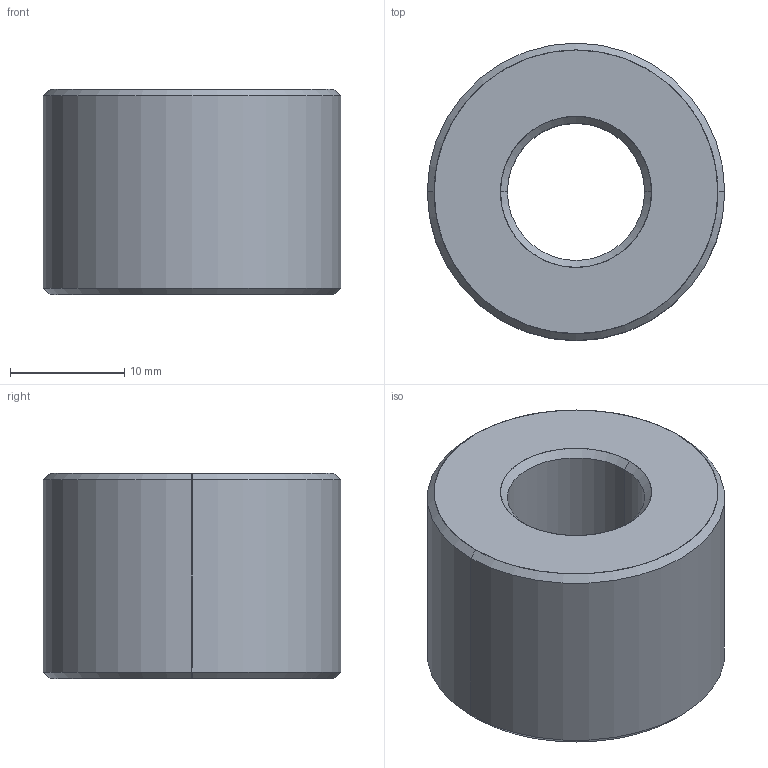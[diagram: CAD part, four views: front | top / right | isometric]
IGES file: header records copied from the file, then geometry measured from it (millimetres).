
Start section: SolidWorks IGES file using analytic representation for surfaces
Global section: file name: C:\Users\ianosborn\Desktop\L1339_v2\L1339_v2_20241024_IGES\L1339.L12-03.igs; native system: SolidWorks 2019; preprocessor: SolidWorks 2019; author: IanOsborn; date: 241024.150454; units: millimetre
Bounding box: 26 x 26 x 18 mm (x, y, z)
Surface area: 2900.6 mm2 (no closed solid volume)
Topology: 0 solids, 0 shells, 14 faces, 176 edges, 176 vertices
Faces by surface type: revolution 12, bspline 2
